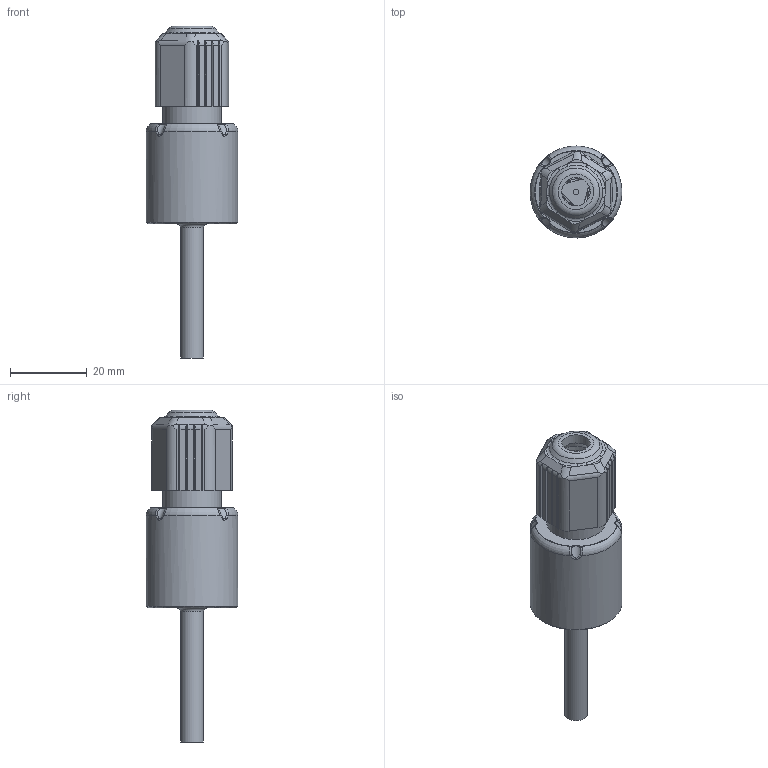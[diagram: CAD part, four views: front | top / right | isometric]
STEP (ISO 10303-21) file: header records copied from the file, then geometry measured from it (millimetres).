
FILE_DESCRIPTION(/* description */ (''),/* implementation_level */ '2;1');
FILE_NAME(/* name */ '560.xxxxAW1000.stp',/* time_stamp */ '2024-06-05T16:32:26+02:00',/* author */ ('uch10269'),/* organization */ (''),/* preprocessor_version */ 'ST-DEVELOPER v19.2',/* originating_system */ 'Autodesk Inventor 2023',/* authorisation */ '');
FILE_SCHEMA (('AUTOMOTIVE_DESIGN { 1 0 10303 214 3 1 1 }'));
Length unit declared in the file: millimetre
Products named in the file (1): Part7
Bounding box: 24 x 24 x 86.67 mm (x, y, z)
Volume: 17028.1 mm3; surface area: 8317.1 mm2
Topology: 2 solids, 2 shells, 307 faces, 827 edges, 536 vertices
Faces by surface type: plane 157, cylinder 80, bspline 46, torus 16, cone 8
Full cylindrical faces by diameter (mm): 1.5 x1, 4 x1, 6 x1, 7.4 x1, 14 x1, 15.2 x1, 24 x1
Entity records: 11228 total; most frequent: CARTESIAN_POINT 3515, ORIENTED_EDGE 1654, DIRECTION 1561, EDGE_CURVE 827, AXIS2_PLACEMENT_3D 553, VERTEX_POINT 536, LINE 455, VECTOR 455
